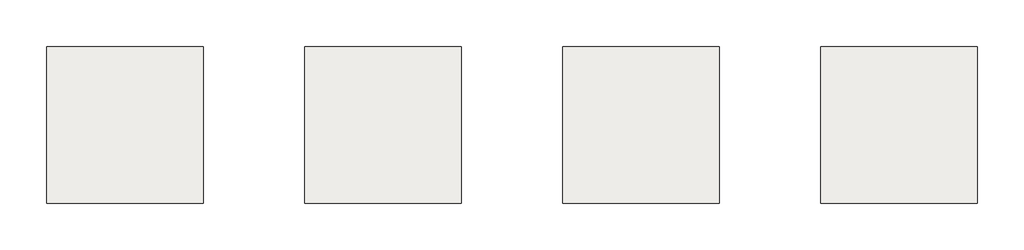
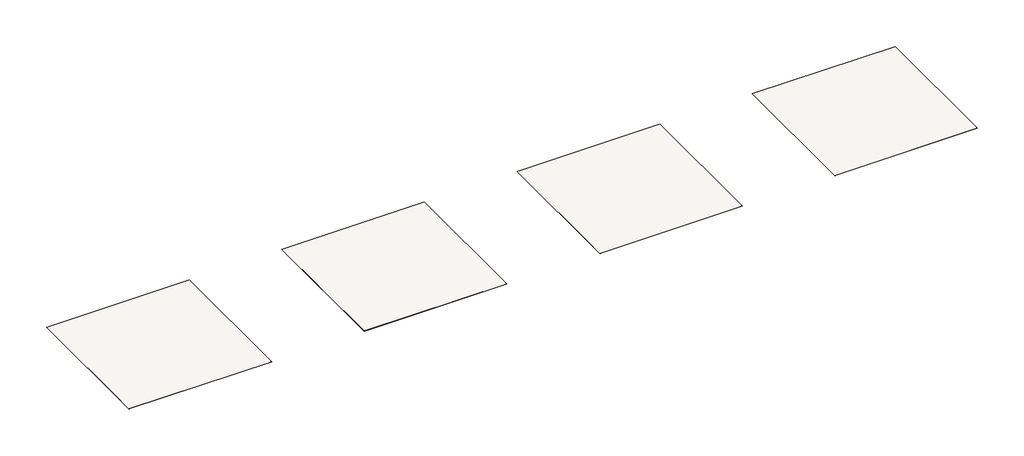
# One storey: 4 slabs.
"""IFC4 building model written with IfcOpenShell, lengths in millimetres."""

from ifc_helpers import new_model, si_unit, frame, origin, place, context, project, spatial, polyline, outline, extrude, element, save

model = new_model("IFC4")

# Units and contexts
model_context = context("Model", 3, world=origin())
ifc_project = project(units=[si_unit("LENGTHUNIT", "METRE", prefix="MILLI")], contexts=[model_context])

# Site, building, storey
site = spatial("IfcSite", under=ifc_project)
building = spatial("IfcBuilding", under=site)
storey = spatial("IfcBuildingStorey", under=building, Name="Tarkett Brasil - iQ Toro SC", Elevation=0.0)

# Slabs
placement = place(None, origin())
element("IfcSlab", 1, ObjectType="Tarkett Brasil - Vinyl - iQ Toro SC - Light Grey 3093100", at=placement, inside=storey, context=model_context, shape_type="SweptSolid", body=[
    extrude(outline(polyline([(-2762.441548, -595.3634296), (-2762.441548, -2595.3634296), (-4762.441548, -2595.3634296), (-4762.441548, -595.3634296), (-2762.441548, -595.3634296)])), frame((0.0, 0.0, -2.0), z_axis=(0.0, 0.0, 1.0), x_axis=(1.0, 0.0, 0.0)), (0.0, 0.0, 1.0), 2.0),
])
element("IfcSlab", 2, ObjectType="Tarkett Brasil - Vinyl - iQ Toro SC - Beige 3093104", at=placement, inside=storey, context=model_context, shape_type="SweptSolid", body=[
    extrude(outline(polyline([(537.558452, -595.3634296), (537.558452, -2595.3634296), (-1462.441548, -2595.3634296), (-1462.441548, -595.3634296), (537.558452, -595.3634296)])), frame((0.0, 0.0, -2.0), z_axis=(0.0, 0.0, 1.0), x_axis=(1.0, 0.0, 0.0)), (0.0, 0.0, 1.0), 2.0),
])
element("IfcSlab", 3, ObjectType="Tarkett Brasil - Vinyl - iQ Toro SC - Light Blues 3093960", at=placement, inside=storey, context=model_context, shape_type="SweptSolid", body=[
    extrude(outline(polyline([(3837.558452, -595.3634296), (3837.558452, -2595.3634296), (1837.558452, -2595.3634296), (1837.558452, -595.3634296), (3837.558452, -595.3634296)])), frame((0.0, 0.0, -2.0), z_axis=(0.0, 0.0, 1.0), x_axis=(1.0, 0.0, 0.0)), (0.0, 0.0, 1.0), 2.0),
])
element("IfcSlab", 4, ObjectType="Tarkett Brasil - Vinyl - iQ Toro SC - Green 3093966", at=placement, inside=storey, context=model_context, shape_type="SweptSolid", body=[
    extrude(outline(polyline([(7137.558452, -595.3634296), (7137.558452, -2595.3634296), (5137.558452, -2595.3634296), (5137.558452, -595.3634296), (7137.558452, -595.3634296)])), frame((0.0, 0.0, -2.0), z_axis=(0.0, 0.0, 1.0), x_axis=(1.0, 0.0, 0.0)), (0.0, 0.0, 1.0), 2.0),
])

save(model, "model.ifc")
